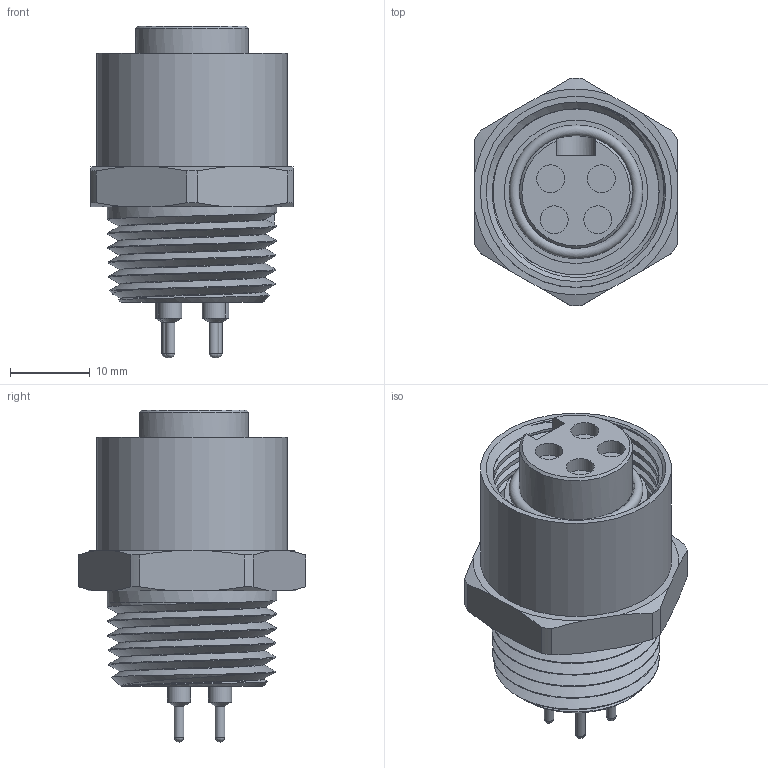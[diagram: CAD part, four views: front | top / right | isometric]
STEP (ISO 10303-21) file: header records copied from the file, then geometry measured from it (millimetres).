
FILE_DESCRIPTION (( 'STEP AP203' ), '1' );
FILE_NAME ('CM03A-PR4S-D-0(R1).STEP', '2022-04-06T08:19:00', ( '' ), ( '' ), 'SwSTEP 2.0', 'SolidWorks 2018', '' );
FILE_SCHEMA (( 'CONFIG_CONTROL_DESIGN' ));
Length unit declared in the file: millimetre
Products named in the file (1): CM03A-PR4S-D-0(R1)
Bounding box: 25.4 x 28.6 x 41.7 mm (x, y, z)
Volume: 12282.3 mm3; surface area: 5428.7 mm2
Topology: 1 solids, 1 shells, 86 faces, 218 edges, 138 vertices
Faces by surface type: cylinder 29, plane 23, cone 20, bspline 9, sphere 4, torus 1
Full cylindrical faces by diameter (mm): 1.2 x4, 2.9 x4, 3.5 x4, 14.2 x1, 18 x1, 20.86 x4, 21.34 x1, 24 x1
Entity records: 5956 total; most frequent: CARTESIAN_POINT 4210, ORIENTED_EDGE 326, DIRECTION 319, EDGE_CURVE 163, AXIS2_PLACEMENT_3D 141, EDGE_LOOP 120, VERTEX_POINT 119, FACE_OUTER_BOUND 99
